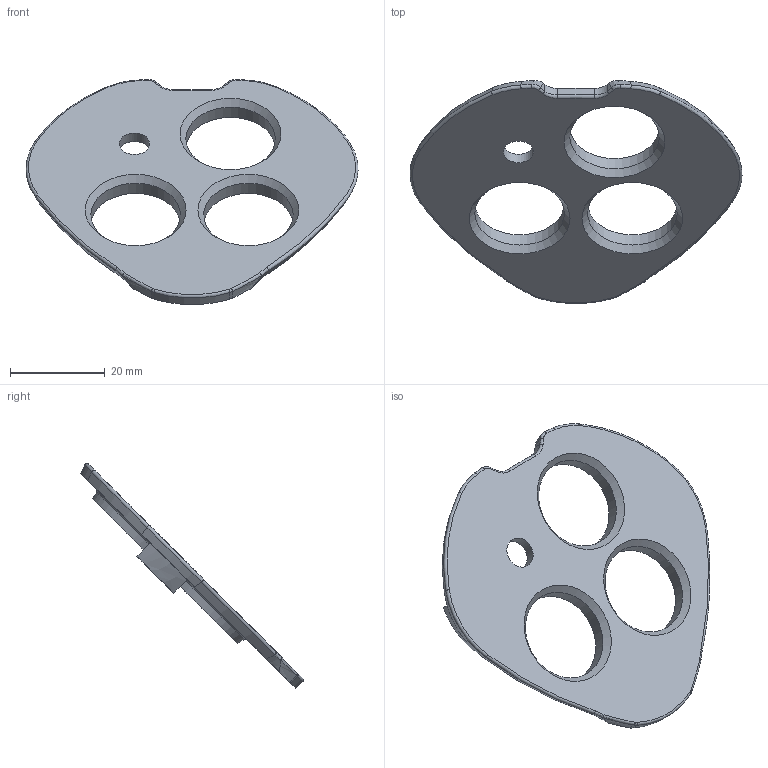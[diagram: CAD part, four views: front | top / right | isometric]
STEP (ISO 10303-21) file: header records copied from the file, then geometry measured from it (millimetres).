
FILE_DESCRIPTION(/* description */ (''),/* implementation_level */ '2;1');
FILE_NAME(/* name */ 'LAST_Grip 01.stp',/* time_stamp */ '2025-11-19T23:08:28+09:00',/* author */ (''),/* organization */ (''),/* preprocessor_version */ 'ST-DEVELOPER v11',/* originating_system */ 'SIEMENS PLM Software NX 7.5',/* authorisation */ '');
FILE_SCHEMA (('CONFIG_CONTROL_DESIGN'));
Length unit declared in the file: millimetre
Products named in the file (1): gyun8741yseo
Bounding box: 70.03 x 46.94 x 47.45 mm (x, y, z)
Volume: 6826 mm3; surface area: 6608.8 mm2
Topology: 1 solids, 1 shells, 82 faces, 195 edges, 122 vertices
Faces by surface type: cylinder 22, torus 20, plane 15, cone 13, bspline 12
Full cylindrical faces by diameter (mm): 2.9 x2, 6.4 x1, 18.9 x3
Entity records: 2909 total; most frequent: CARTESIAN_POINT 1052, DIRECTION 371, ORIENTED_EDGE 348, EDGE_CURVE 174, AXIS2_PLACEMENT_3D 168, VERTEX_POINT 116, EDGE_LOOP 112, CIRCLE 96
